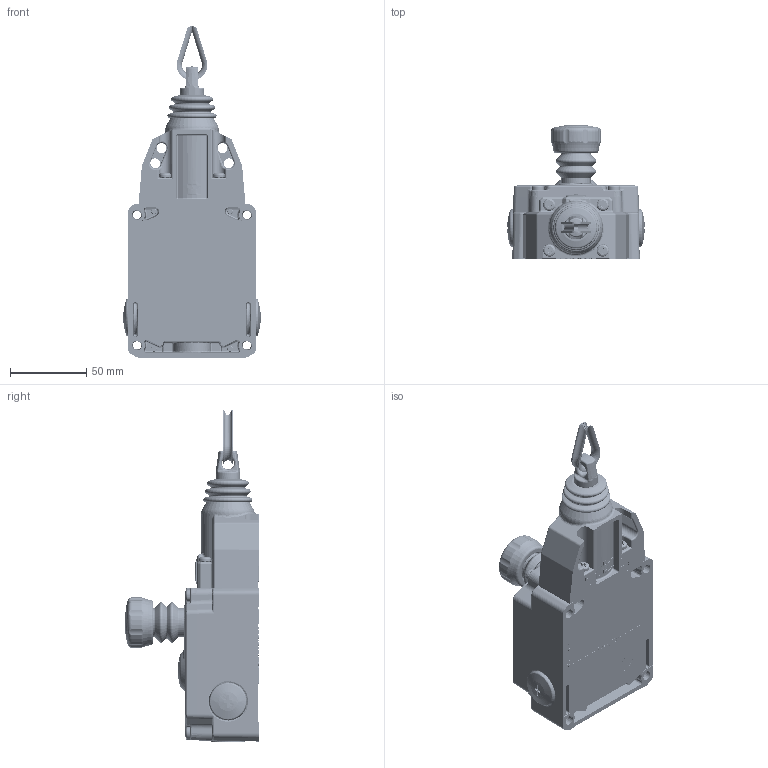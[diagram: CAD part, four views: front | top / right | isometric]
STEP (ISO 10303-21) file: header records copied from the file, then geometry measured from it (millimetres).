
FILE_DESCRIPTION((''),'2;1');
FILE_NAME('6012921089_SW0001','2013-06-03T',('Yvonne.Storm'),(''),'PRO/ENGINEER BY PARAMETRIC TECHNOLOGY CORPORATION, 2012360','PRO/ENGINEER BY PARAMETRIC TECHNOLOGY CORPORATION, 2012360','');
FILE_SCHEMA(('AUTOMOTIVE_DESIGN { 1 0 10303 214 1 1 1 1 }'));
Products named in the file (1): 6012921089_SW0001
Bounding box: 90.13 x 88 x 217.5 mm (x, y, z)
Volume: 213002.9 mm3; surface area: 135194.3 mm2
Topology: 4 solids, 5 shells, 4954 faces, 12400 edges, 7524 vertices
Faces by surface type: plane 1712, cylinder 1331, bspline 686, torus 592, cone 409, sphere 224
Entity records: 257858 total; most frequent: CARTESIAN_POINT 68940, ORIENTED_EDGE 24784, DIRECTION 23307, PRESENTATION_STYLE_ASSIGNMENT 17340, STYLED_ITEM 12398, CURVE_STYLE 12392, EDGE_CURVE 12392, AXIS2_PLACEMENT_3D 8888
